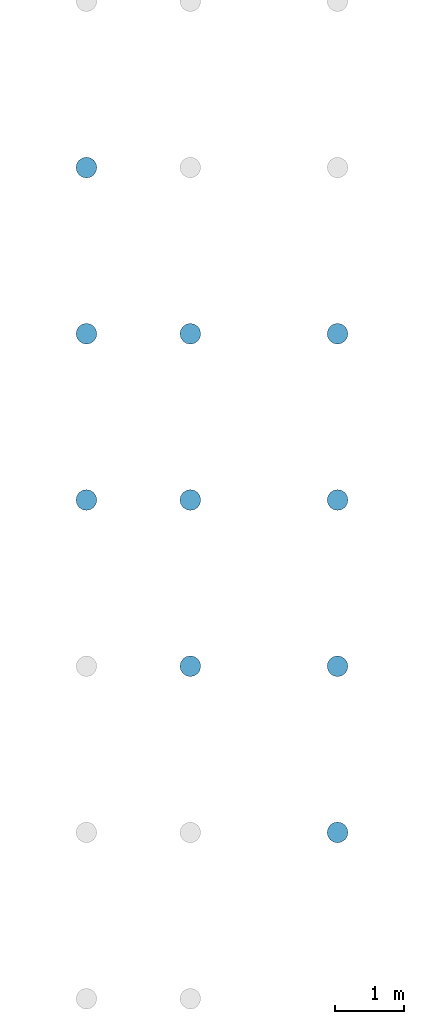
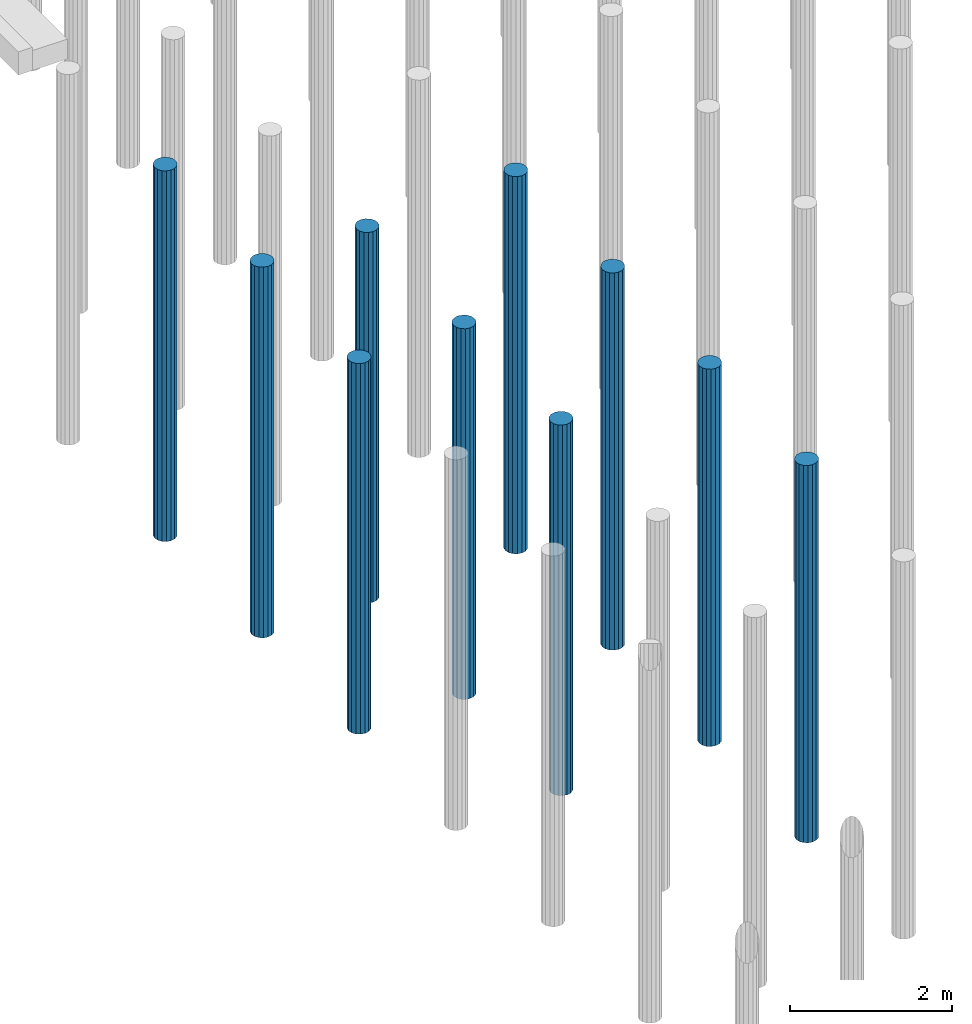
# One storey, part 77 of 102: 10 slabs.
"""IFC2X3 building model written with IfcOpenShell, lengths in millimetres."""

from ifc_helpers import new_model, entity, si_unit, converted_unit, derived_unit, money_unit, direction, frame, origin_with_axes, place, context, subcontext, project, spatial, faceted_brep, material, type_object, element, save


model = new_model("IFC2X3")

# Units and contexts
model_context = context("Model", 3, precision=0.01, world=origin_with_axes(), true_north=direction((0.0, 1.0)))
body_context = subcontext(model_context, "Body", "Model", "MODEL_VIEW")
ifc_project = project(units=[si_unit("LENGTHUNIT", "METRE", prefix="MILLI"), si_unit("AREAUNIT", "SQUARE_METRE"), si_unit("VOLUMEUNIT", "CUBIC_METRE"), converted_unit("PLANEANGLEUNIT", "DEGREE", entity("IfcPlaneAngleMeasure", 0.0174532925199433), si_unit("PLANEANGLEUNIT", "RADIAN"), dimensions=[0, 0, 0, 0, 0, 0, 0]), money_unit("EUR"), converted_unit("TIMEUNIT", "Year", entity("IfcTimeMeasure", 31557600.0), si_unit("TIMEUNIT", "SECOND"), dimensions=[0, 0, 1, 0, 0, 0, 0]), si_unit("MASSUNIT", "GRAM", prefix="KILO"), si_unit("THERMODYNAMICTEMPERATUREUNIT", "DEGREE_CELSIUS"), si_unit("LUMINOUSINTENSITYUNIT", "LUMEN"), si_unit("ENERGYUNIT", "JOULE", prefix="MEGA"), derived_unit("THERMALCONDUCTANCEUNIT", [(si_unit("POWERUNIT", "WATT"), 1), (si_unit("LENGTHUNIT", "METRE"), -1), (si_unit("THERMODYNAMICTEMPERATUREUNIT", "KELVIN"), -1)]), derived_unit("SPECIFICHEATCAPACITYUNIT", [(si_unit("ENERGYUNIT", "JOULE"), 1), (si_unit("MASSUNIT", "GRAM", prefix="KILO"), -1), (si_unit("THERMODYNAMICTEMPERATUREUNIT", "KELVIN"), -1)]), derived_unit("MASSDENSITYUNIT", [(si_unit("MASSUNIT", "GRAM", prefix="KILO"), 1), (si_unit("VOLUMEUNIT", "CUBIC_METRE"), -1)])], contexts=[model_context])

# Site, building, storey
site_placement = place(None, origin_with_axes())
site = spatial("IfcSite", under=ifc_project, at=site_placement, Name="Site", CompositionType="ELEMENT")
building_placement = place(site_placement, origin_with_axes())
building = spatial("IfcBuilding", under=site, at=building_placement, Name="Naam gebouw", CompositionType="ELEMENT")
storey_placement = place(building_placement, frame((0.0, 0.0, -1020.0), z_axis=(0.0, 0.0, 1.0), x_axis=(1.0, 0.0, 0.0)))
storey = spatial("IfcBuildingStorey", under=building, at=storey_placement, Name="-2 fundering", CompositionType="ELEMENT", Elevation=-1020.0)

# Slabs
ifc_material = material(Name="WSP_beton - ihwg beton")
slab_type_1 = type_object("IfcSlabType", Name="Slab 729", PredefinedType="NOTDEFINED")
slab_1_placement = place(storey_placement, frame((25299.99999999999, 30000.0, 979.9999952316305), z_axis=(0.0, 0.0, 1.0), x_axis=(1.0, 0.0, 0.0)))
element("IfcSlab", 1, at=slab_1_placement, inside=storey, type_object=slab_type_1, material=ifc_material, Name="17_WSP_FD_beton - fundatiepaal v21-2:ø300 (schroef)", PredefinedType="NOTDEFINED", context=body_context, shape_type="Brep", body=[
    faceted_brep([(62126.0, 68801.0, -5980.0), (62124.0, 68801.0, -5980.0), (62124.0, 68801.0, -5978.000000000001), (62126.0, 68801.0, -5978.000000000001), (62126.0, 68798.99999999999, -5980.0), (62124.0, 68798.99999999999, -5980.0), (62124.0, 68798.99999999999, -5978.000000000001), (62126.0, 68798.99999999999, -5978.000000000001)], [[[0, 1, 2, 3]], [[0, 4, 5, 1]], [[1, 5, 6, 2]], [[3, 2, 6, 7]], [[4, 0, 3, 7]], [[5, 4, 7, 6]]]),
    faceted_brep([(61975.0, 68800.0, -5980.0), (61986.41807012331, 68742.59748514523, -5980.0), (61986.41807012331, 68742.59748514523, -280.0000000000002), (61975.0, 68800.0, -280.0000000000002), (61986.41807012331, 68857.40251485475, -5980.0), (62018.93398282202, 68906.06601717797, -5980.0), (62067.59748514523, 68938.58192987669, -5980.0), (62125.0, 68950.0, -5980.0), (62182.40251485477, 68938.58192987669, -5980.0), (62231.06601717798, 68906.06601717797, -5980.0), (62263.58192987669, 68857.40251485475, -5980.0), (62275.0, 68800.0, -5980.0), (62263.58192987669, 68742.59748514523, -5980.0), (62231.06601717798, 68693.93398282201, -5980.0), (62182.40251485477, 68661.4180701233, -5980.0), (62125.0, 68649.99999999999, -5980.0), (62067.59748514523, 68661.4180701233, -5980.0), (62018.93398282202, 68693.93398282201, -5980.0), (62018.93398282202, 68693.93398282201, -280.0000000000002), (62067.59748514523, 68661.4180701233, -280.0000000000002), (62125.0, 68649.99999999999, -280.0000000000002), (62182.40251485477, 68661.4180701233, -280.0000000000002), (62231.06601717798, 68693.93398282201, -280.0000000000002), (62263.58192987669, 68742.59748514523, -280.0000000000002), (62275.0, 68800.0, -280.0000000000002), (62263.58192987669, 68857.40251485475, -280.0000000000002), (62231.06601717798, 68906.06601717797, -280.0000000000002), (62182.40251485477, 68938.58192987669, -280.0000000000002), (62125.0, 68950.0, -280.0000000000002), (62067.59748514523, 68938.58192987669, -280.0000000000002), (62018.93398282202, 68906.06601717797, -280.0000000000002), (61986.41807012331, 68857.40251485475, -280.0000000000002)], [[[0, 1, 2, 3]], [[0, 4, 5, 6, 7, 8, 9, 10, 11, 12, 13, 14, 15, 16, 17, 1]], [[1, 17, 18, 2]], [[3, 2, 18, 19, 20, 21, 22, 23, 24, 25, 26, 27, 28, 29, 30, 31]], [[4, 0, 3, 31]], [[5, 4, 31, 30]], [[6, 5, 30, 29]], [[7, 6, 29, 28]], [[8, 7, 28, 27]], [[9, 8, 27, 26]], [[10, 9, 26, 25]], [[11, 10, 25, 24]], [[12, 11, 24, 23]], [[13, 12, 23, 22]], [[14, 13, 22, 21]], [[15, 14, 21, 20]], [[16, 15, 20, 19]], [[17, 16, 19, 18]]]),
])
slab_type_2 = type_object("IfcSlabType", Name="Slab 733", PredefinedType="NOTDEFINED")
slab_2_placement = place(storey_placement, frame((25299.99999999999, 30000.0, 979.9999952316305), z_axis=(0.0, 0.0, 1.0), x_axis=(1.0, 0.0, 0.0)))
element("IfcSlab", 2, at=slab_2_placement, inside=storey, type_object=slab_type_2, material=ifc_material, Name="17_WSP_FD_beton - fundatiepaal v21-2:ø300 (schroef)", PredefinedType="NOTDEFINED", context=body_context, shape_type="Brep", body=[
    faceted_brep([(62126.0, 71201.00000000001, -5980.0), (62124.0, 71201.00000000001, -5980.0), (62124.0, 71201.00000000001, -5978.000000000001), (62126.0, 71201.00000000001, -5978.000000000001), (62126.0, 71199.0, -5980.0), (62124.0, 71199.0, -5980.0), (62124.0, 71199.0, -5978.000000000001), (62126.0, 71199.0, -5978.000000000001)], [[[0, 1, 2, 3]], [[0, 4, 5, 1]], [[1, 5, 6, 2]], [[3, 2, 6, 7]], [[4, 0, 3, 7]], [[5, 4, 7, 6]]]),
    faceted_brep([(61975.0, 71200.0, -5980.0), (61986.41807012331, 71142.59748514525, -5980.0), (61986.41807012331, 71142.59748514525, -280.0000000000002), (61975.0, 71200.0, -280.0000000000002), (61986.41807012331, 71257.40251485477, -5980.0), (62018.93398282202, 71306.06601717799, -5980.0), (62067.59748514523, 71338.5819298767, -5980.0), (62125.0, 71350.00000000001, -5980.0), (62182.40251485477, 71338.5819298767, -5980.0), (62231.06601717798, 71306.06601717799, -5980.0), (62263.58192987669, 71257.40251485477, -5980.0), (62275.0, 71200.0, -5980.0), (62263.58192987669, 71142.59748514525, -5980.0), (62231.06601717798, 71093.93398282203, -5980.0), (62182.40251485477, 71061.41807012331, -5980.0), (62125.0, 71050.0, -5980.0), (62067.59748514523, 71061.41807012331, -5980.0), (62018.93398282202, 71093.93398282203, -5980.0), (62018.93398282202, 71093.93398282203, -280.0000000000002), (62067.59748514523, 71061.41807012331, -280.0000000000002), (62125.0, 71050.0, -280.0000000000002), (62182.40251485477, 71061.41807012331, -280.0000000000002), (62231.06601717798, 71093.93398282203, -280.0000000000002), (62263.58192987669, 71142.59748514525, -280.0000000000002), (62275.0, 71200.0, -280.0000000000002), (62263.58192987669, 71257.40251485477, -280.0000000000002), (62231.06601717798, 71306.06601717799, -280.0000000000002), (62182.40251485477, 71338.5819298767, -280.0000000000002), (62125.0, 71350.00000000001, -280.0000000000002), (62067.59748514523, 71338.5819298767, -280.0000000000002), (62018.93398282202, 71306.06601717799, -280.0000000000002), (61986.41807012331, 71257.40251485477, -280.0000000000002)], [[[0, 1, 2, 3]], [[0, 4, 5, 6, 7, 8, 9, 10, 11, 12, 13, 14, 15, 16, 17, 1]], [[1, 17, 18, 2]], [[3, 2, 18, 19, 20, 21, 22, 23, 24, 25, 26, 27, 28, 29, 30, 31]], [[4, 0, 3, 31]], [[5, 4, 31, 30]], [[6, 5, 30, 29]], [[7, 6, 29, 28]], [[8, 7, 28, 27]], [[9, 8, 27, 26]], [[10, 9, 26, 25]], [[11, 10, 25, 24]], [[12, 11, 24, 23]], [[13, 12, 23, 22]], [[14, 13, 22, 21]], [[15, 14, 21, 20]], [[16, 15, 20, 19]], [[17, 16, 19, 18]]]),
])
slab_type_3 = type_object("IfcSlabType", Name="Slab 769", PredefinedType="NOTDEFINED")
slab_3_placement = place(storey_placement, frame((25299.99999999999, 30000.0, 979.9999952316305), z_axis=(0.0, 0.0, 1.0), x_axis=(1.0, 0.0, 0.0)))
element("IfcSlab", 3, at=slab_3_placement, inside=storey, type_object=slab_type_3, material=ifc_material, Name="17_WSP_FD_beton - fundatiepaal v21-2:ø300 (schroef)", PredefinedType="NOTDEFINED", context=body_context, shape_type="Brep", body=[
    faceted_brep([(60001.0, 71201.00000000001, -5980.0), (59999.0, 71201.00000000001, -5980.0), (59999.0, 71201.00000000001, -5978.000000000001), (60001.0, 71201.00000000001, -5978.000000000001), (60001.0, 71199.0, -5980.0), (59999.0, 71199.0, -5980.0), (59999.0, 71199.0, -5978.000000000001), (60001.0, 71199.0, -5978.000000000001)], [[[0, 1, 2, 3]], [[0, 4, 5, 1]], [[1, 5, 6, 2]], [[3, 2, 6, 7]], [[4, 0, 3, 7]], [[5, 4, 7, 6]]]),
    faceted_brep([(59850.0, 71200.0, -5980.0), (59861.41807012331, 71142.59748514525, -5980.0), (59861.41807012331, 71142.59748514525, -380.0000000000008), (59850.0, 71200.0, -380.0000000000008), (59861.41807012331, 71257.40251485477, -5980.0), (59893.93398282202, 71306.06601717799, -5980.0), (59942.59748514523, 71338.5819298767, -5980.0), (60000.0, 71350.00000000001, -5980.0), (60057.40251485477, 71338.5819298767, -5980.0), (60106.06601717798, 71306.06601717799, -5980.0), (60138.58192987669, 71257.40251485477, -5980.0), (60150.0, 71200.0, -5980.0), (60138.58192987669, 71142.59748514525, -5980.0), (60106.06601717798, 71093.93398282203, -5980.0), (60057.40251485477, 71061.41807012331, -5980.0), (60000.0, 71050.0, -5980.0), (59942.59748514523, 71061.41807012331, -5980.0), (59893.93398282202, 71093.93398282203, -5980.0), (59893.93398282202, 71093.93398282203, -380.0000000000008), (59942.59748514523, 71061.41807012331, -380.0000000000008), (60000.0, 71050.0, -380.0000000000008), (60057.40251485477, 71061.41807012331, -380.0000000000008), (60106.06601717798, 71093.93398282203, -380.0000000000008), (60138.58192987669, 71142.59748514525, -380.0000000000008), (60150.0, 71200.0, -380.0000000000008), (60138.58192987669, 71257.40251485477, -380.0000000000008), (60106.06601717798, 71306.06601717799, -380.0000000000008), (60057.40251485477, 71338.5819298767, -380.0000000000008), (60000.0, 71350.00000000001, -380.0000000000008), (59942.59748514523, 71338.5819298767, -380.0000000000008), (59893.93398282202, 71306.06601717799, -380.0000000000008), (59861.41807012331, 71257.40251485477, -380.0000000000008)], [[[0, 1, 2, 3]], [[0, 4, 5, 6, 7, 8, 9, 10, 11, 12, 13, 14, 15, 16, 17, 1]], [[1, 17, 18, 2]], [[3, 2, 18, 19, 20, 21, 22, 23, 24, 25, 26, 27, 28, 29, 30, 31]], [[4, 0, 3, 31]], [[5, 4, 31, 30]], [[6, 5, 30, 29]], [[7, 6, 29, 28]], [[8, 7, 28, 27]], [[9, 8, 27, 26]], [[10, 9, 26, 25]], [[11, 10, 25, 24]], [[12, 11, 24, 23]], [[13, 12, 23, 22]], [[14, 13, 22, 21]], [[15, 14, 21, 20]], [[16, 15, 20, 19]], [[17, 16, 19, 18]]]),
])
slab_type_4 = type_object("IfcSlabType", Name="Slab 846", PredefinedType="NOTDEFINED")
slab_4_placement = place(storey_placement, frame((25299.99999999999, 30000.0, 979.9999952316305), z_axis=(0.0, 0.0, 1.0), x_axis=(1.0, 0.0, 0.0)))
element("IfcSlab", 4, at=slab_4_placement, inside=storey, type_object=slab_type_4, material=ifc_material, Name="17_WSP_FD_beton - fundatiepaal v21-2:ø300 (schroef)", PredefinedType="NOTDEFINED", context=body_context, shape_type="Brep", body=[
    faceted_brep([(62126.0, 73601.0, -5980.0), (62124.0, 73601.0, -5980.0), (62124.0, 73601.0, -5978.000000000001), (62126.0, 73601.0, -5978.000000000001), (62126.0, 73598.99999999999, -5980.0), (62124.0, 73598.99999999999, -5980.0), (62124.0, 73598.99999999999, -5978.000000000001), (62126.0, 73598.99999999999, -5978.000000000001)], [[[0, 1, 2, 3]], [[0, 4, 5, 1]], [[1, 5, 6, 2]], [[3, 2, 6, 7]], [[4, 0, 3, 7]], [[5, 4, 7, 6]]]),
    faceted_brep([(61975.0, 73600.0, -5980.0), (61986.41807012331, 73542.59748514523, -5980.0), (61986.41807012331, 73542.59748514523, -280.0000000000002), (61975.0, 73600.0, -280.0000000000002), (61986.41807012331, 73657.40251485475, -5980.0), (62018.93398282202, 73706.06601717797, -5980.0), (62067.59748514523, 73738.58192987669, -5980.0), (62125.0, 73750.0, -5980.0), (62182.40251485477, 73738.58192987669, -5980.0), (62231.06601717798, 73706.06601717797, -5980.0), (62263.58192987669, 73657.40251485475, -5980.0), (62275.0, 73600.0, -5980.0), (62263.58192987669, 73542.59748514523, -5980.0), (62231.06601717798, 73493.93398282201, -5980.0), (62182.40251485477, 73461.4180701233, -5980.0), (62125.0, 73449.99999999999, -5980.0), (62067.59748514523, 73461.4180701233, -5980.0), (62018.93398282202, 73493.93398282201, -5980.0), (62018.93398282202, 73493.93398282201, -280.0000000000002), (62067.59748514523, 73461.4180701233, -280.0000000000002), (62125.0, 73449.99999999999, -280.0000000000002), (62182.40251485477, 73461.4180701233, -280.0000000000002), (62231.06601717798, 73493.93398282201, -280.0000000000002), (62263.58192987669, 73542.59748514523, -280.0000000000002), (62275.0, 73600.0, -280.0000000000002), (62263.58192987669, 73657.40251485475, -280.0000000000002), (62231.06601717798, 73706.06601717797, -280.0000000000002), (62182.40251485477, 73738.58192987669, -280.0000000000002), (62125.0, 73750.0, -280.0000000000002), (62067.59748514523, 73738.58192987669, -280.0000000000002), (62018.93398282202, 73706.06601717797, -280.0000000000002), (61986.41807012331, 73657.40251485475, -280.0000000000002)], [[[0, 1, 2, 3]], [[0, 4, 5, 6, 7, 8, 9, 10, 11, 12, 13, 14, 15, 16, 17, 1]], [[1, 17, 18, 2]], [[3, 2, 18, 19, 20, 21, 22, 23, 24, 25, 26, 27, 28, 29, 30, 31]], [[4, 0, 3, 31]], [[5, 4, 31, 30]], [[6, 5, 30, 29]], [[7, 6, 29, 28]], [[8, 7, 28, 27]], [[9, 8, 27, 26]], [[10, 9, 26, 25]], [[11, 10, 25, 24]], [[12, 11, 24, 23]], [[13, 12, 23, 22]], [[14, 13, 22, 21]], [[15, 14, 21, 20]], [[16, 15, 20, 19]], [[17, 16, 19, 18]]]),
])
slab_type_5 = type_object("IfcSlabType", Name="Slab 845", PredefinedType="NOTDEFINED")
slab_5_placement = place(storey_placement, frame((25299.99999999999, 30000.0, 979.9999952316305), z_axis=(0.0, 0.0, 1.0), x_axis=(1.0, 0.0, 0.0)))
element("IfcSlab", 5, at=slab_5_placement, inside=storey, type_object=slab_type_5, material=ifc_material, Name="17_WSP_FD_beton - fundatiepaal v21-2:ø300 (schroef)", PredefinedType="NOTDEFINED", context=body_context, shape_type="Brep", body=[
    faceted_brep([(60001.0, 73601.0, -5980.0), (59999.0, 73601.0, -5980.0), (59999.0, 73601.0, -5978.000000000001), (60001.0, 73601.0, -5978.000000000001), (60001.0, 73598.99999999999, -5980.0), (59999.0, 73598.99999999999, -5980.0), (59999.0, 73598.99999999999, -5978.000000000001), (60001.0, 73598.99999999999, -5978.000000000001)], [[[0, 1, 2, 3]], [[0, 4, 5, 1]], [[1, 5, 6, 2]], [[3, 2, 6, 7]], [[4, 0, 3, 7]], [[5, 4, 7, 6]]]),
    faceted_brep([(59850.0, 73600.0, -5980.0), (59861.41807012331, 73542.59748514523, -5980.0), (59861.41807012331, 73542.59748514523, -380.0000000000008), (59850.0, 73600.0, -380.0000000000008), (59861.41807012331, 73657.40251485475, -5980.0), (59893.93398282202, 73706.06601717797, -5980.0), (59942.59748514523, 73738.58192987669, -5980.0), (60000.0, 73750.0, -5980.0), (60057.40251485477, 73738.58192987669, -5980.0), (60106.06601717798, 73706.06601717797, -5980.0), (60138.58192987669, 73657.40251485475, -5980.0), (60150.0, 73600.0, -5980.0), (60138.58192987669, 73542.59748514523, -5980.0), (60106.06601717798, 73493.93398282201, -5980.0), (60057.40251485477, 73461.4180701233, -5980.0), (60000.0, 73449.99999999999, -5980.0), (59942.59748514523, 73461.4180701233, -5980.0), (59893.93398282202, 73493.93398282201, -5980.0), (59893.93398282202, 73493.93398282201, -380.0000000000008), (59942.59748514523, 73461.4180701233, -380.0000000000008), (60000.0, 73449.99999999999, -380.0000000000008), (60057.40251485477, 73461.4180701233, -380.0000000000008), (60106.06601717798, 73493.93398282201, -380.0000000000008), (60138.58192987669, 73542.59748514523, -380.0000000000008), (60150.0, 73600.0, -380.0000000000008), (60138.58192987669, 73657.40251485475, -380.0000000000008), (60106.06601717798, 73706.06601717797, -380.0000000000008), (60057.40251485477, 73738.58192987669, -380.0000000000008), (60000.0, 73750.0, -380.0000000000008), (59942.59748514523, 73738.58192987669, -380.0000000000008), (59893.93398282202, 73706.06601717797, -380.0000000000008), (59861.41807012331, 73657.40251485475, -380.0000000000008)], [[[0, 1, 2, 3]], [[0, 4, 5, 6, 7, 8, 9, 10, 11, 12, 13, 14, 15, 16, 17, 1]], [[1, 17, 18, 2]], [[3, 2, 18, 19, 20, 21, 22, 23, 24, 25, 26, 27, 28, 29, 30, 31]], [[4, 0, 3, 31]], [[5, 4, 31, 30]], [[6, 5, 30, 29]], [[7, 6, 29, 28]], [[8, 7, 28, 27]], [[9, 8, 27, 26]], [[10, 9, 26, 25]], [[11, 10, 25, 24]], [[12, 11, 24, 23]], [[13, 12, 23, 22]], [[14, 13, 22, 21]], [[15, 14, 21, 20]], [[16, 15, 20, 19]], [[17, 16, 19, 18]]]),
])
slab_type_6 = type_object("IfcSlabType", Name="Slab 878", PredefinedType="NOTDEFINED")
slab_6_placement = place(storey_placement, frame((25299.99999999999, 30000.0, 979.9999952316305), z_axis=(0.0, 0.0, 1.0), x_axis=(1.0, 0.0, 0.0)))
element("IfcSlab", 6, at=slab_6_placement, inside=storey, type_object=slab_type_6, material=ifc_material, Name="17_WSP_FD_beton - fundatiepaal v21-2:ø300 (schroef)", PredefinedType="NOTDEFINED", context=body_context, shape_type="Brep", body=[
    faceted_brep([(58501.0, 73601.0, -5980.0), (58499.0, 73601.0, -5980.0), (58499.0, 73601.0, -5978.000000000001), (58501.0, 73601.0, -5978.000000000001), (58501.0, 73598.99999999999, -5980.0), (58499.0, 73598.99999999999, -5980.0), (58499.0, 73598.99999999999, -5978.000000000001), (58501.0, 73598.99999999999, -5978.000000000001)], [[[0, 1, 2, 3]], [[0, 4, 5, 1]], [[1, 5, 6, 2]], [[3, 2, 6, 7]], [[4, 0, 3, 7]], [[5, 4, 7, 6]]]),
    faceted_brep([(58350.0, 73600.0, -5980.0), (58361.41807012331, 73542.59748514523, -5980.0), (58361.41807012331, 73542.59748514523, -380.0000000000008), (58350.0, 73600.0, -380.0000000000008), (58361.41807012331, 73657.40251485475, -5980.0), (58393.93398282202, 73706.06601717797, -5980.0), (58442.59748514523, 73738.58192987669, -5980.0), (58500.0, 73750.0, -5980.0), (58557.40251485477, 73738.58192987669, -5980.0), (58606.06601717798, 73706.06601717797, -5980.0), (58638.58192987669, 73657.40251485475, -5980.0), (58650.0, 73600.0, -5980.0), (58638.58192987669, 73542.59748514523, -5980.0), (58606.06601717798, 73493.93398282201, -5980.0), (58557.40251485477, 73461.4180701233, -5980.0), (58500.0, 73449.99999999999, -5980.0), (58442.59748514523, 73461.4180701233, -5980.0), (58393.93398282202, 73493.93398282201, -5980.0), (58393.93398282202, 73493.93398282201, -380.0000000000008), (58442.59748514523, 73461.4180701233, -380.0000000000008), (58500.0, 73449.99999999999, -380.0000000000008), (58557.40251485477, 73461.4180701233, -380.0000000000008), (58606.06601717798, 73493.93398282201, -380.0000000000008), (58638.58192987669, 73542.59748514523, -380.0000000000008), (58650.0, 73600.0, -380.0000000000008), (58638.58192987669, 73657.40251485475, -380.0000000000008), (58606.06601717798, 73706.06601717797, -380.0000000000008), (58557.40251485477, 73738.58192987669, -380.0000000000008), (58500.0, 73750.0, -380.0000000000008), (58442.59748514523, 73738.58192987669, -380.0000000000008), (58393.93398282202, 73706.06601717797, -380.0000000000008), (58361.41807012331, 73657.40251485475, -380.0000000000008)], [[[0, 1, 2, 3]], [[0, 4, 5, 6, 7, 8, 9, 10, 11, 12, 13, 14, 15, 16, 17, 1]], [[1, 17, 18, 2]], [[3, 2, 18, 19, 20, 21, 22, 23, 24, 25, 26, 27, 28, 29, 30, 31]], [[4, 0, 3, 31]], [[5, 4, 31, 30]], [[6, 5, 30, 29]], [[7, 6, 29, 28]], [[8, 7, 28, 27]], [[9, 8, 27, 26]], [[10, 9, 26, 25]], [[11, 10, 25, 24]], [[12, 11, 24, 23]], [[13, 12, 23, 22]], [[14, 13, 22, 21]], [[15, 14, 21, 20]], [[16, 15, 20, 19]], [[17, 16, 19, 18]]]),
])
slab_type_7 = type_object("IfcSlabType", Name="Slab 898", PredefinedType="NOTDEFINED")
slab_7_placement = place(storey_placement, frame((25299.99999999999, 30000.0, 979.9999952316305), z_axis=(0.0, 0.0, 1.0), x_axis=(1.0, 0.0, 0.0)))
element("IfcSlab", 7, at=slab_7_placement, inside=storey, type_object=slab_type_7, material=ifc_material, Name="17_WSP_FD_beton - fundatiepaal v21-2:ø300 (schroef)", PredefinedType="NOTDEFINED", context=body_context, shape_type="Brep", body=[
    faceted_brep([(58501.0, 76001.0, -5980.0), (58499.0, 76001.0, -5980.0), (58499.0, 76001.0, -5978.000000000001), (58501.0, 76001.0, -5978.000000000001), (58501.0, 75999.0, -5980.0), (58499.0, 75999.0, -5980.0), (58499.0, 75999.0, -5978.000000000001), (58501.0, 75999.0, -5978.000000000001)], [[[0, 1, 2, 3]], [[0, 4, 5, 1]], [[1, 5, 6, 2]], [[3, 2, 6, 7]], [[4, 0, 3, 7]], [[5, 4, 7, 6]]]),
    faceted_brep([(58350.0, 76000.0, -5980.0), (58361.41807012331, 75942.59748514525, -5980.0), (58361.41807012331, 75942.59748514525, -380.0000000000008), (58350.0, 76000.0, -380.0000000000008), (58361.41807012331, 76057.40251485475, -5980.0), (58393.93398282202, 76106.06601717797, -5980.0), (58442.59748514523, 76138.58192987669, -5980.0), (58500.0, 76150.0, -5980.0), (58557.40251485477, 76138.58192987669, -5980.0), (58606.06601717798, 76106.06601717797, -5980.0), (58638.58192987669, 76057.40251485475, -5980.0), (58650.0, 76000.0, -5980.0), (58638.58192987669, 75942.59748514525, -5980.0), (58606.06601717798, 75893.93398282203, -5980.0), (58557.40251485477, 75861.41807012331, -5980.0), (58500.0, 75850.0, -5980.0), (58442.59748514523, 75861.41807012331, -5980.0), (58393.93398282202, 75893.93398282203, -5980.0), (58393.93398282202, 75893.93398282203, -380.0000000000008), (58442.59748514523, 75861.41807012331, -380.0000000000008), (58500.0, 75850.0, -380.0000000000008), (58557.40251485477, 75861.41807012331, -380.0000000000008), (58606.06601717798, 75893.93398282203, -380.0000000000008), (58638.58192987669, 75942.59748514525, -380.0000000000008), (58650.0, 76000.0, -380.0000000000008), (58638.58192987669, 76057.40251485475, -380.0000000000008), (58606.06601717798, 76106.06601717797, -380.0000000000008), (58557.40251485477, 76138.58192987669, -380.0000000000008), (58500.0, 76150.0, -380.0000000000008), (58442.59748514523, 76138.58192987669, -380.0000000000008), (58393.93398282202, 76106.06601717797, -380.0000000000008), (58361.41807012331, 76057.40251485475, -380.0000000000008)], [[[0, 1, 2, 3]], [[0, 4, 5, 6, 7, 8, 9, 10, 11, 12, 13, 14, 15, 16, 17, 1]], [[1, 17, 18, 2]], [[3, 2, 18, 19, 20, 21, 22, 23, 24, 25, 26, 27, 28, 29, 30, 31]], [[4, 0, 3, 31]], [[5, 4, 31, 30]], [[6, 5, 30, 29]], [[7, 6, 29, 28]], [[8, 7, 28, 27]], [[9, 8, 27, 26]], [[10, 9, 26, 25]], [[11, 10, 25, 24]], [[12, 11, 24, 23]], [[13, 12, 23, 22]], [[14, 13, 22, 21]], [[15, 14, 21, 20]], [[16, 15, 20, 19]], [[17, 16, 19, 18]]]),
])
slab_type_8 = type_object("IfcSlabType", Name="Slab 912", PredefinedType="NOTDEFINED")
slab_8_placement = place(storey_placement, frame((25299.99999999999, 30000.0, 979.9999952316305), z_axis=(0.0, 0.0, 1.0), x_axis=(1.0, 0.0, 0.0)))
element("IfcSlab", 8, at=slab_8_placement, inside=storey, type_object=slab_type_8, material=ifc_material, Name="17_WSP_FD_beton - fundatiepaal v21-2:ø300 (schroef)", PredefinedType="NOTDEFINED", context=body_context, shape_type="Brep", body=[
    faceted_brep([(58501.0, 78401.00000000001, -5980.0), (58499.0, 78401.00000000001, -5980.0), (58499.0, 78401.00000000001, -5978.000000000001), (58501.0, 78401.00000000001, -5978.000000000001), (58501.0, 78399.0, -5980.0), (58499.0, 78399.0, -5980.0), (58499.0, 78399.0, -5978.000000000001), (58501.0, 78399.0, -5978.000000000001)], [[[0, 1, 2, 3]], [[0, 4, 5, 1]], [[1, 5, 6, 2]], [[3, 2, 6, 7]], [[4, 0, 3, 7]], [[5, 4, 7, 6]]]),
    faceted_brep([(58350.0, 78400.0, -5980.0), (58361.41807012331, 78342.59748514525, -5980.0), (58361.41807012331, 78342.59748514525, -380.0000000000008), (58350.0, 78400.0, -380.0000000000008), (58361.41807012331, 78457.40251485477, -5980.0), (58393.93398282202, 78506.06601717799, -5980.0), (58442.59748514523, 78538.5819298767, -5980.0), (58500.0, 78550.00000000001, -5980.0), (58557.40251485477, 78538.5819298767, -5980.0), (58606.06601717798, 78506.06601717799, -5980.0), (58638.58192987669, 78457.40251485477, -5980.0), (58650.0, 78400.0, -5980.0), (58638.58192987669, 78342.59748514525, -5980.0), (58606.06601717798, 78293.93398282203, -5980.0), (58557.40251485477, 78261.41807012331, -5980.0), (58500.0, 78250.0, -5980.0), (58442.59748514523, 78261.41807012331, -5980.0), (58393.93398282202, 78293.93398282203, -5980.0), (58393.93398282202, 78293.93398282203, -380.0000000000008), (58442.59748514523, 78261.41807012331, -380.0000000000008), (58500.0, 78250.0, -380.0000000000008), (58557.40251485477, 78261.41807012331, -380.0000000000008), (58606.06601717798, 78293.93398282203, -380.0000000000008), (58638.58192987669, 78342.59748514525, -380.0000000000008), (58650.0, 78400.0, -380.0000000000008), (58638.58192987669, 78457.40251485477, -380.0000000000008), (58606.06601717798, 78506.06601717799, -380.0000000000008), (58557.40251485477, 78538.5819298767, -380.0000000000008), (58500.0, 78550.00000000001, -380.0000000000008), (58442.59748514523, 78538.5819298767, -380.0000000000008), (58393.93398282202, 78506.06601717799, -380.0000000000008), (58361.41807012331, 78457.40251485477, -380.0000000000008)], [[[0, 1, 2, 3]], [[0, 4, 5, 6, 7, 8, 9, 10, 11, 12, 13, 14, 15, 16, 17, 1]], [[1, 17, 18, 2]], [[3, 2, 18, 19, 20, 21, 22, 23, 24, 25, 26, 27, 28, 29, 30, 31]], [[4, 0, 3, 31]], [[5, 4, 31, 30]], [[6, 5, 30, 29]], [[7, 6, 29, 28]], [[8, 7, 28, 27]], [[9, 8, 27, 26]], [[10, 9, 26, 25]], [[11, 10, 25, 24]], [[12, 11, 24, 23]], [[13, 12, 23, 22]], [[14, 13, 22, 21]], [[15, 14, 21, 20]], [[16, 15, 20, 19]], [[17, 16, 19, 18]]]),
])
slab_type_9 = type_object("IfcSlabType", Name="Slab 913", PredefinedType="NOTDEFINED")
slab_9_placement = place(storey_placement, frame((25299.99999999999, 30000.0, 979.9999952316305), z_axis=(0.0, 0.0, 1.0), x_axis=(1.0, 0.0, 0.0)))
element("IfcSlab", 9, at=slab_9_placement, inside=storey, type_object=slab_type_9, material=ifc_material, Name="17_WSP_FD_beton - fundatiepaal v21-2:ø300 (schroef)", PredefinedType="NOTDEFINED", context=body_context, shape_type="Brep", body=[
    faceted_brep([(60001.0, 76001.0, -5980.0), (59999.0, 76001.0, -5980.0), (59999.0, 76001.0, -5978.000000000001), (60001.0, 76001.0, -5978.000000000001), (60001.0, 75999.0, -5980.0), (59999.0, 75999.0, -5980.0), (59999.0, 75999.0, -5978.000000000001), (60001.0, 75999.0, -5978.000000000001)], [[[0, 1, 2, 3]], [[0, 4, 5, 1]], [[1, 5, 6, 2]], [[3, 2, 6, 7]], [[4, 0, 3, 7]], [[5, 4, 7, 6]]]),
    faceted_brep([(59850.0, 76000.0, -5980.0), (59861.41807012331, 75942.59748514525, -5980.0), (59861.41807012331, 75942.59748514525, -380.0000000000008), (59850.0, 76000.0, -380.0000000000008), (59861.41807012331, 76057.40251485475, -5980.0), (59893.93398282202, 76106.06601717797, -5980.0), (59942.59748514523, 76138.58192987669, -5980.0), (60000.0, 76150.0, -5980.0), (60057.40251485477, 76138.58192987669, -5980.0), (60106.06601717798, 76106.06601717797, -5980.0), (60138.58192987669, 76057.40251485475, -5980.0), (60150.0, 76000.0, -5980.0), (60138.58192987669, 75942.59748514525, -5980.0), (60106.06601717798, 75893.93398282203, -5980.0), (60057.40251485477, 75861.41807012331, -5980.0), (60000.0, 75850.0, -5980.0), (59942.59748514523, 75861.41807012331, -5980.0), (59893.93398282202, 75893.93398282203, -5980.0), (59893.93398282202, 75893.93398282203, -380.0000000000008), (59942.59748514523, 75861.41807012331, -380.0000000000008), (60000.0, 75850.0, -380.0000000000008), (60057.40251485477, 75861.41807012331, -380.0000000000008), (60106.06601717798, 75893.93398282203, -380.0000000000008), (60138.58192987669, 75942.59748514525, -380.0000000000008), (60150.0, 76000.0, -380.0000000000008), (60138.58192987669, 76057.40251485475, -380.0000000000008), (60106.06601717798, 76106.06601717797, -380.0000000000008), (60057.40251485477, 76138.58192987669, -380.0000000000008), (60000.0, 76150.0, -380.0000000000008), (59942.59748514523, 76138.58192987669, -380.0000000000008), (59893.93398282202, 76106.06601717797, -380.0000000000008), (59861.41807012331, 76057.40251485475, -380.0000000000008)], [[[0, 1, 2, 3]], [[0, 4, 5, 6, 7, 8, 9, 10, 11, 12, 13, 14, 15, 16, 17, 1]], [[1, 17, 18, 2]], [[3, 2, 18, 19, 20, 21, 22, 23, 24, 25, 26, 27, 28, 29, 30, 31]], [[4, 0, 3, 31]], [[5, 4, 31, 30]], [[6, 5, 30, 29]], [[7, 6, 29, 28]], [[8, 7, 28, 27]], [[9, 8, 27, 26]], [[10, 9, 26, 25]], [[11, 10, 25, 24]], [[12, 11, 24, 23]], [[13, 12, 23, 22]], [[14, 13, 22, 21]], [[15, 14, 21, 20]], [[16, 15, 20, 19]], [[17, 16, 19, 18]]]),
])
slab_type_10 = type_object("IfcSlabType", Name="Slab 914", PredefinedType="NOTDEFINED")
slab_10_placement = place(storey_placement, frame((25299.99999999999, 30000.0, 979.9999952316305), z_axis=(0.0, 0.0, 1.0), x_axis=(1.0, 0.0, 0.0)))
element("IfcSlab", 10, at=slab_10_placement, inside=storey, type_object=slab_type_10, material=ifc_material, Name="17_WSP_FD_beton - fundatiepaal v21-2:ø300 (schroef)", PredefinedType="NOTDEFINED", context=body_context, shape_type="Brep", body=[
    faceted_brep([(62126.0, 76001.0, -5980.0), (62124.0, 76001.0, -5980.0), (62124.0, 76001.0, -5978.000000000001), (62126.0, 76001.0, -5978.000000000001), (62126.0, 75999.0, -5980.0), (62124.0, 75999.0, -5980.0), (62124.0, 75999.0, -5978.000000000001), (62126.0, 75999.0, -5978.000000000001)], [[[0, 1, 2, 3]], [[0, 4, 5, 1]], [[1, 5, 6, 2]], [[3, 2, 6, 7]], [[4, 0, 3, 7]], [[5, 4, 7, 6]]]),
    faceted_brep([(61975.0, 76000.0, -5980.0), (61986.41807012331, 75942.59748514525, -5980.0), (61986.41807012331, 75942.59748514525, -280.0000000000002), (61975.0, 76000.0, -280.0000000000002), (61986.41807012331, 76057.40251485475, -5980.0), (62018.93398282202, 76106.06601717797, -5980.0), (62067.59748514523, 76138.58192987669, -5980.0), (62125.0, 76150.0, -5980.0), (62182.40251485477, 76138.58192987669, -5980.0), (62231.06601717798, 76106.06601717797, -5980.0), (62263.58192987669, 76057.40251485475, -5980.0), (62275.0, 76000.0, -5980.0), (62263.58192987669, 75942.59748514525, -5980.0), (62231.06601717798, 75893.93398282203, -5980.0), (62182.40251485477, 75861.41807012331, -5980.0), (62125.0, 75850.0, -5980.0), (62067.59748514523, 75861.41807012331, -5980.0), (62018.93398282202, 75893.93398282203, -5980.0), (62018.93398282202, 75893.93398282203, -280.0000000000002), (62067.59748514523, 75861.41807012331, -280.0000000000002), (62125.0, 75850.0, -280.0000000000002), (62182.40251485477, 75861.41807012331, -280.0000000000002), (62231.06601717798, 75893.93398282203, -280.0000000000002), (62263.58192987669, 75942.59748514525, -280.0000000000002), (62275.0, 76000.0, -280.0000000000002), (62263.58192987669, 76057.40251485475, -280.0000000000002), (62231.06601717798, 76106.06601717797, -280.0000000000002), (62182.40251485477, 76138.58192987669, -280.0000000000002), (62125.0, 76150.0, -280.0000000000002), (62067.59748514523, 76138.58192987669, -280.0000000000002), (62018.93398282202, 76106.06601717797, -280.0000000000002), (61986.41807012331, 76057.40251485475, -280.0000000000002)], [[[0, 1, 2, 3]], [[0, 4, 5, 6, 7, 8, 9, 10, 11, 12, 13, 14, 15, 16, 17, 1]], [[1, 17, 18, 2]], [[3, 2, 18, 19, 20, 21, 22, 23, 24, 25, 26, 27, 28, 29, 30, 31]], [[4, 0, 3, 31]], [[5, 4, 31, 30]], [[6, 5, 30, 29]], [[7, 6, 29, 28]], [[8, 7, 28, 27]], [[9, 8, 27, 26]], [[10, 9, 26, 25]], [[11, 10, 25, 24]], [[12, 11, 24, 23]], [[13, 12, 23, 22]], [[14, 13, 22, 21]], [[15, 14, 21, 20]], [[16, 15, 20, 19]], [[17, 16, 19, 18]]]),
])

save(model, "model.ifc")
